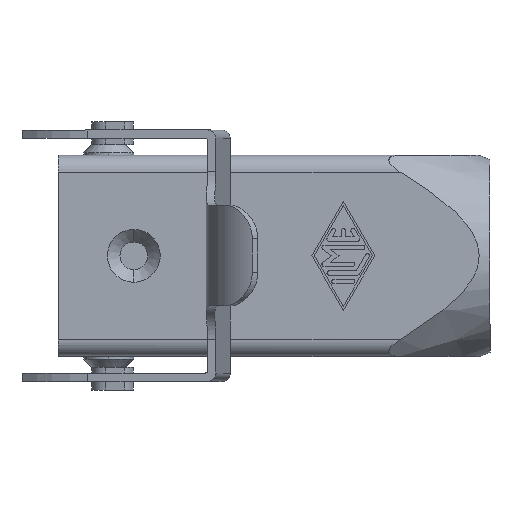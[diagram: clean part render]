
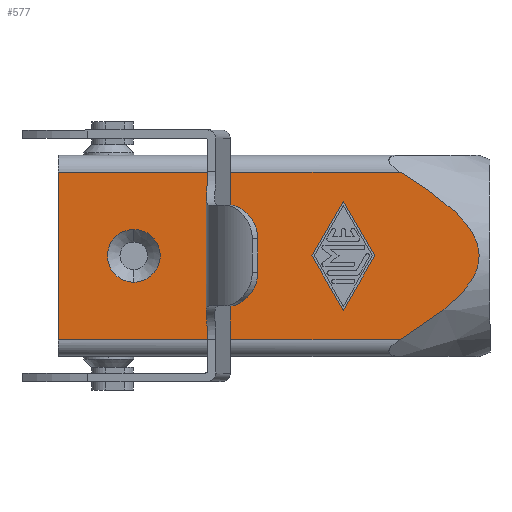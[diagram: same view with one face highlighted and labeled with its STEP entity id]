
A CAD part, top view. The second image highlights one B-rep face of the part: STEP entity #577.
In plain terms, the highlighted planar face has unit normal (0, 0, 1).
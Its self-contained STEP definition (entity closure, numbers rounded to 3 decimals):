
#6 = VECTOR ( 'NONE', #2208, 1000. ) ;
#102 = CARTESIAN_POINT ( 'NONE',  ( 9., 0., 12. ) ) ;
#169 = VECTOR ( 'NONE', #5669, 1000. ) ;
#194 = CARTESIAN_POINT ( 'NONE',  ( 49.378, -2.812, 12. ) ) ;
#330 = EDGE_CURVE ( 'NONE', #3686, #4315, #5195, .T. ) ;
#343 = EDGE_LOOP ( 'NONE', ( #4657, #3360, #3880, #3014 ) ) ;
#376 = EDGE_LOOP ( 'NONE', ( #414, #2444 ) ) ;
#414 = ORIENTED_EDGE ( 'NONE', *, *, #3737, .T. ) ;
#455 = CARTESIAN_POINT ( 'NONE',  ( 34., -6.5, 12. ) ) ;
#466 = CARTESIAN_POINT ( 'NONE',  ( 0., -10., 12. ) ) ;
#503 = DIRECTION ( 'NONE',  ( -0.5, -0.866, 0. ) ) ;
#510 = DIRECTION ( 'NONE',  ( 0., -1., 0. ) ) ;
#549 = AXIS2_PLACEMENT_3D ( 'NONE', #2872, #1505, #4172 ) ;
#577 = ADVANCED_FACE ( 'NONE', ( #5395, #1861, #3053 ), #1972, .T. ) ;
#758 = ORIENTED_EDGE ( 'NONE', *, *, #3153, .T. ) ;
#771 = CARTESIAN_POINT ( 'NONE',  ( 30.25, 0., 12. ) ) ;
#836 = CARTESIAN_POINT ( 'NONE',  ( 49.969, 1.489, 12. ) ) ;
#878 = LINE ( 'NONE', #4920, #5304 ) ;
#925 = CARTESIAN_POINT ( 'NONE',  ( 0., -10., 12. ) ) ;
#970 = CARTESIAN_POINT ( 'NONE',  ( 49.65, 2.33, 12. ) ) ;
#992 = VERTEX_POINT ( 'NONE', #925 ) ;
#1099 = CARTESIAN_POINT ( 'NONE',  ( 40.787, -10., 12. ) ) ;
#1169 = CARTESIAN_POINT ( 'NONE',  ( 49.358, 2.846, 12. ) ) ;
#1351 = AXIS2_PLACEMENT_3D ( 'NONE', #102, #3163, #510 ) ;
#1476 = EDGE_CURVE ( 'NONE', #5491, #4102, #3431, .T. ) ;
#1482 = EDGE_CURVE ( 'NONE', #4102, #4617, #2706, .T. ) ;
#1499 = CARTESIAN_POINT ( 'NONE',  ( 44.766, -7.406, 12. ) ) ;
#1505 = DIRECTION ( 'NONE',  ( 0., 0., 1. ) ) ;
#1535 = CARTESIAN_POINT ( 'NONE',  ( 9., -3.15, 12. ) ) ;
#1560 = CARTESIAN_POINT ( 'NONE',  ( 34., 6.5, 12. ) ) ;
#1604 = CARTESIAN_POINT ( 'NONE',  ( 42.805, 8.755, 12. ) ) ;
#1648 = DIRECTION ( 'NONE',  ( 0.5, 0.866, 0. ) ) ;
#1663 = CARTESIAN_POINT ( 'NONE',  ( 47.045, 5.542, 12. ) ) ;
#1795 = VERTEX_POINT ( 'NONE', #1535 ) ;
#1857 = CARTESIAN_POINT ( 'NONE',  ( 45.71, 6.701, 12. ) ) ;
#1861 = FACE_BOUND ( 'NONE', #376, .T. ) ;
#1961 = CARTESIAN_POINT ( 'NONE',  ( 48.32, -4.248, 12. ) ) ;
#1972 = PLANE ( 'NONE',  #549 ) ;
#1980 = CARTESIAN_POINT ( 'NONE',  ( 0., 0., 12. ) ) ;
#1983 = CARTESIAN_POINT ( 'NONE',  ( 47.475, 5.139, 12. ) ) ;
#2016 = CARTESIAN_POINT ( 'NONE',  ( 48.283, 4.276, 12. ) ) ;
#2058 = CARTESIAN_POINT ( 'NONE',  ( 47.068, -5.521, 12. ) ) ;
#2145 = CARTESIAN_POINT ( 'NONE',  ( 49.98, -1.455, 12. ) ) ;
#2178 = LINE ( 'NONE', #3530, #6 ) ;
#2208 = DIRECTION ( 'NONE',  ( 0.5, -0.866, 0. ) ) ;
#2300 = CARTESIAN_POINT ( 'NONE',  ( 40.787, 10., 12. ) ) ;
#2322 = VECTOR ( 'NONE', #4429, 1000. ) ;
#2378 = EDGE_CURVE ( 'NONE', #5656, #1795, #3769, .T. ) ;
#2393 = LINE ( 'NONE', #1980, #3555 ) ;
#2425 = CARTESIAN_POINT ( 'NONE',  ( 48.846, 3.581, 12. ) ) ;
#2444 = ORIENTED_EDGE ( 'NONE', *, *, #2378, .T. ) ;
#2468 = CARTESIAN_POINT ( 'NONE',  ( 50.168, 0.616, 12. ) ) ;
#2512 = CARTESIAN_POINT ( 'NONE',  ( 34., -6.5, 12. ) ) ;
#2610 = CIRCLE ( 'NONE', #1351, 3.15 ) ;
#2634 = CARTESIAN_POINT ( 'NONE',  ( 40.787, -10., 12. ) ) ;
#2669 = EDGE_CURVE ( 'NONE', #2828, #3686, #2685, .T. ) ;
#2683 = CARTESIAN_POINT ( 'NONE',  ( 30.25, 0., 12. ) ) ;
#2685 = LINE ( 'NONE', #2512, #4879 ) ;
#2706 = LINE ( 'NONE', #4258, #169 ) ;
#2748 = CARTESIAN_POINT ( 'NONE',  ( 50.173, -0.581, 12. ) ) ;
#2801 = AXIS2_PLACEMENT_3D ( 'NONE', #5008, #4570, #3260 ) ;
#2828 = VERTEX_POINT ( 'NONE', #455 ) ;
#2872 = CARTESIAN_POINT ( 'NONE',  ( 0., -12., 12. ) ) ;
#2988 = EDGE_CURVE ( 'NONE', #4315, #5103, #2178, .T. ) ;
#3014 = ORIENTED_EDGE ( 'NONE', *, *, #2669, .T. ) ;
#3053 = FACE_OUTER_BOUND ( 'NONE', #3347, .T. ) ;
#3132 = ORIENTED_EDGE ( 'NONE', *, *, #1476, .T. ) ;
#3153 = EDGE_CURVE ( 'NONE', #4617, #992, #2393, .T. ) ;
#3163 = DIRECTION ( 'NONE',  ( 0., 0., -1. ) ) ;
#3260 = DIRECTION ( 'NONE',  ( 0., -1., 0. ) ) ;
#3347 = EDGE_LOOP ( 'NONE', ( #758, #5584, #3132, #3620 ) ) ;
#3360 = ORIENTED_EDGE ( 'NONE', *, *, #2988, .T. ) ;
#3431 = B_SPLINE_CURVE_WITH_KNOTS ( 'NONE', 3,
 ( #1099, #4178, #3917, #1499, #4336, #2058, #4680, #1961, #5540, #194, #4160, #2145, #4234, #2748, #4550, #5400, #2468, #3781, #836, #970, #1169, #2425, #3628, #2016, #3843, #1983, #1663, #1857, #5207, #1604, #5469, #2300 ),
 .UNSPECIFIED., .F., .F.,
 ( 4, 2, 2, 2, 2, 2, 2, 2, 2, 2, 2, 2, 2, 2, 2, 4 ),
 ( 0., 0.004, 0.007, 0.009, 0.011, 0.012, 0.013, 0.014, 0.015, 0.016, 0.018, 0.019, 0.02, 0.021, 0.025, 0.028 ),
 .UNSPECIFIED. ) ;
#3493 = LINE ( 'NONE', #466, #2322 ) ;
#3530 = CARTESIAN_POINT ( 'NONE',  ( 34., 6.5, 12. ) ) ;
#3555 = VECTOR ( 'NONE', #4179, 1000. ) ;
#3620 = ORIENTED_EDGE ( 'NONE', *, *, #1482, .T. ) ;
#3628 = CARTESIAN_POINT ( 'NONE',  ( 48.663, 3.819, 12. ) ) ;
#3686 = VERTEX_POINT ( 'NONE', #2683 ) ;
#3737 = EDGE_CURVE ( 'NONE', #1795, #5656, #2610, .T. ) ;
#3769 = CIRCLE ( 'NONE', #2801, 3.15 ) ;
#3781 = CARTESIAN_POINT ( 'NONE',  ( 50.054, 1.2, 12. ) ) ;
#3843 = CARTESIAN_POINT ( 'NONE',  ( 48.085, 4.497, 12. ) ) ;
#3880 = ORIENTED_EDGE ( 'NONE', *, *, #4819, .T. ) ;
#3917 = CARTESIAN_POINT ( 'NONE',  ( 42.811, -8.752, 12. ) ) ;
#4011 = VECTOR ( 'NONE', #1648, 1000. ) ;
#4102 = VERTEX_POINT ( 'NONE', #4721 ) ;
#4104 = CARTESIAN_POINT ( 'NONE',  ( 9., 3.15, 12. ) ) ;
#4160 = CARTESIAN_POINT ( 'NONE',  ( 49.666, -2.297, 12. ) ) ;
#4172 = DIRECTION ( 'NONE',  ( 1., 0., 0. ) ) ;
#4178 = CARTESIAN_POINT ( 'NONE',  ( 41.807, -9.387, 12. ) ) ;
#4179 = DIRECTION ( 'NONE',  ( 0., -1., 0. ) ) ;
#4234 = CARTESIAN_POINT ( 'NONE',  ( 50.062, -1.165, 12. ) ) ;
#4258 = CARTESIAN_POINT ( 'NONE',  ( 0., 10., 12. ) ) ;
#4315 = VERTEX_POINT ( 'NONE', #1560 ) ;
#4336 = CARTESIAN_POINT ( 'NONE',  ( 45.718, -6.696, 12. ) ) ;
#4429 = DIRECTION ( 'NONE',  ( -1., 0., 0. ) ) ;
#4550 = CARTESIAN_POINT ( 'NONE',  ( 50.201, -0.284, 12. ) ) ;
#4570 = DIRECTION ( 'NONE',  ( 0., 0., -1. ) ) ;
#4617 = VERTEX_POINT ( 'NONE', #4961 ) ;
#4657 = ORIENTED_EDGE ( 'NONE', *, *, #330, .T. ) ;
#4680 = CARTESIAN_POINT ( 'NONE',  ( 47.502, -5.113, 12. ) ) ;
#4721 = CARTESIAN_POINT ( 'NONE',  ( 40.787, 10., 12. ) ) ;
#4754 = DIRECTION ( 'NONE',  ( -0.5, 0.866, 0. ) ) ;
#4819 = EDGE_CURVE ( 'NONE', #5103, #2828, #878, .T. ) ;
#4879 = VECTOR ( 'NONE', #4754, 1000. ) ;
#4920 = CARTESIAN_POINT ( 'NONE',  ( 37.75, 0., 12. ) ) ;
#4961 = CARTESIAN_POINT ( 'NONE',  ( 0., 10., 12. ) ) ;
#5008 = CARTESIAN_POINT ( 'NONE',  ( 9., 0., 12. ) ) ;
#5103 = VERTEX_POINT ( 'NONE', #5694 ) ;
#5164 = EDGE_CURVE ( 'NONE', #5491, #992, #3493, .T. ) ;
#5195 = LINE ( 'NONE', #771, #4011 ) ;
#5207 = CARTESIAN_POINT ( 'NONE',  ( 44.759, 7.411, 12. ) ) ;
#5304 = VECTOR ( 'NONE', #503, 1000. ) ;
#5395 = FACE_BOUND ( 'NONE', #343, .T. ) ;
#5400 = CARTESIAN_POINT ( 'NONE',  ( 50.199, 0.32, 12. ) ) ;
#5469 = CARTESIAN_POINT ( 'NONE',  ( 41.804, 9.389, 12. ) ) ;
#5491 = VERTEX_POINT ( 'NONE', #2634 ) ;
#5540 = CARTESIAN_POINT ( 'NONE',  ( 48.706, -3.787, 12. ) ) ;
#5584 = ORIENTED_EDGE ( 'NONE', *, *, #5164, .F. ) ;
#5656 = VERTEX_POINT ( 'NONE', #4104 ) ;
#5669 = DIRECTION ( 'NONE',  ( -1., 0., 0. ) ) ;
#5694 = CARTESIAN_POINT ( 'NONE',  ( 37.75, 0., 12. ) ) ;
